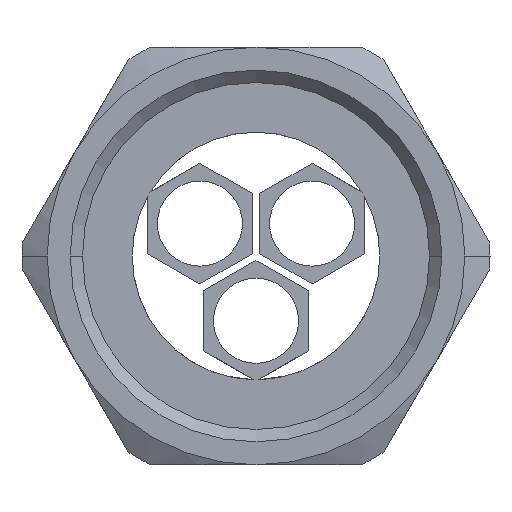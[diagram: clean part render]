
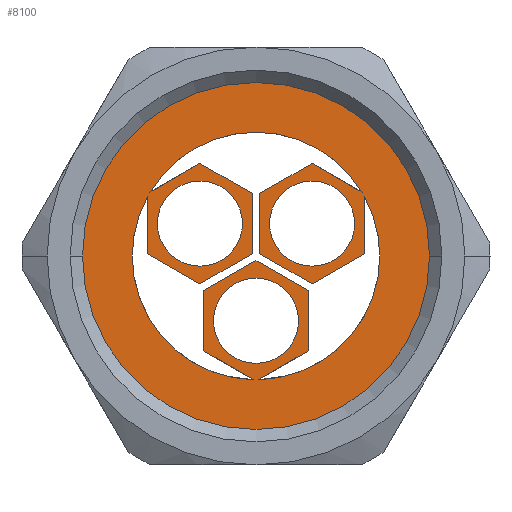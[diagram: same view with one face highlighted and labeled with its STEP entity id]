
A CAD part, left-side view. The second image highlights one B-rep face of the part: STEP entity #8100.
In plain terms, the highlighted planar face has unit normal (-1, 0, 0).
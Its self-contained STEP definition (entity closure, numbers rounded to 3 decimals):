
#5130=CARTESIAN_POINT('',(267.848,146.761,0.));
#5140=VERTEX_POINT('',#5130);
#5230=CARTESIAN_POINT('',(267.848,99.561,0.));
#5240=VERTEX_POINT('',#5230);
#5270=CARTESIAN_POINT('',(267.848,123.161,0.));
#5280=DIRECTION('',(1.,0.,0.));
#5290=DIRECTION('',(0.,-1.,0.));
#5300=AXIS2_PLACEMENT_3D('',#5270,#5280,#5290);
#5310=CIRCLE('',#5300,23.6);
#5320=EDGE_CURVE('',#5140,#5240,#5310,.T.);
#5420=CARTESIAN_POINT('',(267.848,-165.35,
150.406));
#5430=DIRECTION('',(0.,0.866,-0.5));
#5440=VECTOR('',#5430,1.);
#5450=LINE('',#5420,#5440);
#5460=CARTESIAN_POINT('',(267.848,116.411,
-12.269));
#5470=VERTEX_POINT('',#5460);
#5480=CARTESIAN_POINT('',(267.848,122.869,
-15.997));
#5490=VERTEX_POINT('',#5480);
#5500=EDGE_CURVE('',#5470,#5490,#5450,.T.);
#5930=CARTESIAN_POINT('',(267.848,102.861,0.));
#5940=DIRECTION('',(1.,0.,0.));
#5950=DIRECTION('',(0.,-1.,0.));
#5960=AXIS2_PLACEMENT_3D('',#5930,#5940,#5950);
#5970=PLANE('',#5960);
#5980=EDGE_CURVE('',#5240,#5140,#5310,.T.);
#5990=ORIENTED_EDGE('',*,*,#5980,.F.);
#6000=ORIENTED_EDGE('',*,*,#5320,.F.);
#6010=EDGE_LOOP('',(#6000,#5990));
#6020=FACE_OUTER_BOUND('',#6010,.T.);
#6030=CARTESIAN_POINT('',(267.848,115.911,
4.186));
#6040=DIRECTION('',(1.,0.,0.));
#6050=DIRECTION('',(0.,1.,0.));
#6060=AXIS2_PLACEMENT_3D('',#6030,#6040,#6050);
#6070=CIRCLE('',#6060,5.5);
#6080=CARTESIAN_POINT('',(267.848,121.411,
4.186));
#6090=VERTEX_POINT('',#6080);
#6100=CARTESIAN_POINT('',(267.848,110.411,
4.186));
#6110=VERTEX_POINT('',#6100);
#6120=EDGE_CURVE('',#6090,#6110,#6070,.T.);
#6130=ORIENTED_EDGE('',*,*,#6120,.T.);
#6140=EDGE_CURVE('',#6110,#6090,#6070,.T.);
#6150=ORIENTED_EDGE('',*,*,#6140,.T.);
#6160=EDGE_LOOP('',(#6150,#6130));
#6170=FACE_BOUND('',#6160,.T.);
#6180=CARTESIAN_POINT('',(267.848,123.161,
-8.372));
#6190=DIRECTION('',(1.,0.,0.));
#6200=DIRECTION('',(0.,-0.5,0.866));
#6210=AXIS2_PLACEMENT_3D('',#6180,#6190,#6200);
#6220=CIRCLE('',#6210,5.5);
#6230=CARTESIAN_POINT('',(267.848,120.411,
-3.608));
#6240=VERTEX_POINT('',#6230);
#6250=CARTESIAN_POINT('',(267.848,125.911,
-13.135));
#6260=VERTEX_POINT('',#6250);
#6270=EDGE_CURVE('',#6240,#6260,#6220,.T.);
#6280=ORIENTED_EDGE('',*,*,#6270,.T.);
#6290=EDGE_CURVE('',#6260,#6240,#6220,.T.);
#6300=ORIENTED_EDGE('',*,*,#6290,.T.);
#6310=EDGE_LOOP('',(#6300,#6280));
#6320=FACE_BOUND('',#6310,.T.);
#6330=CARTESIAN_POINT('',(267.848,130.411,
4.186));
#6340=DIRECTION('',(1.,0.,0.));
#6350=DIRECTION('',(0.,-0.5,-0.866));
#6360=AXIS2_PLACEMENT_3D('',#6330,#6340,#6350);
#6370=CIRCLE('',#6360,5.5);
#6380=CARTESIAN_POINT('',(267.848,127.661,
-0.577));
#6390=VERTEX_POINT('',#6380);
#6400=CARTESIAN_POINT('',(267.848,133.161,
8.949));
#6410=VERTEX_POINT('',#6400);
#6420=EDGE_CURVE('',#6390,#6410,#6370,.T.);
#6430=ORIENTED_EDGE('',*,*,#6420,.T.);
#6440=EDGE_CURVE('',#6410,#6390,#6370,.T.);
#6450=ORIENTED_EDGE('',*,*,#6440,.T.);
#6460=EDGE_LOOP('',(#6450,#6430));
#6470=FACE_BOUND('',#6460,.T.);
#6480=CARTESIAN_POINT('',(267.848,-165.35,
-158.778));
#6490=DIRECTION('',(0.,-0.866,-0.5));
#6500=VECTOR('',#6490,1.);
#6510=LINE('',#6480,#6500);
#6520=CARTESIAN_POINT('',(267.848,130.411,
11.98));
#6530=VERTEX_POINT('',#6520);
#6540=CARTESIAN_POINT('',(267.848,123.661,
8.083));
#6550=VERTEX_POINT('',#6540);
#6560=EDGE_CURVE('',#6530,#6550,#6510,.T.);
#6570=ORIENTED_EDGE('',*,*,#6560,.F.);
#6580=CARTESIAN_POINT('',(267.848,123.661,0.));
#6590=DIRECTION('',(0.,0.,-1.));
#6600=VECTOR('',#6590,1.);
#6610=LINE('',#6580,#6600);
#6620=CARTESIAN_POINT('',(267.848,123.661,
0.289));
#6630=VERTEX_POINT('',#6620);
#6640=EDGE_CURVE('',#6550,#6630,#6610,.T.);
#6650=ORIENTED_EDGE('',*,*,#6640,.F.);
#6660=CARTESIAN_POINT('',(267.848,-165.35,
167.149));
#6670=DIRECTION('',(0.,0.866,-0.5));
#6680=VECTOR('',#6670,1.);
#6690=LINE('',#6660,#6680);
#6700=CARTESIAN_POINT('',(267.848,130.411,
-3.608));
#6710=VERTEX_POINT('',#6700);
#6720=EDGE_CURVE('',#6630,#6710,#6690,.T.);
#6730=ORIENTED_EDGE('',*,*,#6720,.F.);
#6740=CARTESIAN_POINT('',(267.848,-165.35,
-174.366));
#6750=DIRECTION('',(0.,0.866,0.5));
#6760=VECTOR('',#6750,1.);
#6770=LINE('',#6740,#6760);
#6780=CARTESIAN_POINT('',(267.848,137.161,
0.289));
#6790=VERTEX_POINT('',#6780);
#6800=EDGE_CURVE('',#6710,#6790,#6770,.T.);
#6810=ORIENTED_EDGE('',*,*,#6800,.F.);
#6820=CARTESIAN_POINT('',(267.848,137.161,0.));
#6830=DIRECTION('',(0.,0.,1.));
#6840=VECTOR('',#6830,1.);
#6850=LINE('',#6820,#6840);
#6860=CARTESIAN_POINT('',(267.848,137.161,
7.746));
#6870=VERTEX_POINT('',#6860);
#6880=EDGE_CURVE('',#6790,#6870,#6850,.T.);
#6890=ORIENTED_EDGE('',*,*,#6880,.F.);
#6900=CARTESIAN_POINT('',(267.848,123.161,0.));
#6910=DIRECTION('',(1.,0.,0.));
#6920=DIRECTION('',(0.,-1.,0.));
#6930=AXIS2_PLACEMENT_3D('',#6900,#6910,#6920);
#6940=CIRCLE('',#6930,16.);
#6950=CARTESIAN_POINT('',(267.848,139.161,
0.));
#6960=VERTEX_POINT('',#6950);
#6970=EDGE_CURVE('',#6960,#6870,#6940,.T.);
#6980=ORIENTED_EDGE('',*,*,#6970,.T.);
#6990=CARTESIAN_POINT('',(267.848,123.453,
-15.997));
#7000=VERTEX_POINT('',#6990);
#7010=EDGE_CURVE('',#7000,#6960,#6940,.T.);
#7020=ORIENTED_EDGE('',*,*,#7010,.T.);
#7030=CARTESIAN_POINT('',(267.848,-165.35,
-182.738));
#7040=DIRECTION('',(0.,0.866,0.5));
#7050=VECTOR('',#7040,1.);
#7060=LINE('',#7030,#7050);
#7070=CARTESIAN_POINT('',(267.848,129.911,
-12.269));
#7080=VERTEX_POINT('',#7070);
#7090=EDGE_CURVE('',#7000,#7080,#7060,.T.);
#7100=ORIENTED_EDGE('',*,*,#7090,.F.);
#7110=CARTESIAN_POINT('',(267.848,129.911,0.));
#7120=DIRECTION('',(0.,0.,1.));
#7130=VECTOR('',#7120,1.);
#7140=LINE('',#7110,#7130);
#7150=CARTESIAN_POINT('',(267.848,129.911,
-4.474));
#7160=VERTEX_POINT('',#7150);
#7170=EDGE_CURVE('',#7080,#7160,#7140,.T.);
#7180=ORIENTED_EDGE('',*,*,#7170,.F.);
#7190=CARTESIAN_POINT('',(267.848,-165.35,
165.995));
#7200=DIRECTION('',(0.,-0.866,0.5));
#7210=VECTOR('',#7200,1.);
#7220=LINE('',#7190,#7210);
#7230=CARTESIAN_POINT('',(267.848,123.161,
-0.577));
#7240=VERTEX_POINT('',#7230);
#7250=EDGE_CURVE('',#7160,#7240,#7220,.T.);
#7260=ORIENTED_EDGE('',*,*,#7250,.F.);
#7270=CARTESIAN_POINT('',(267.848,-165.35,
-167.149));
#7280=DIRECTION('',(0.,-0.866,-0.5));
#7290=VECTOR('',#7280,1.);
#7300=LINE('',#7270,#7290);
#7310=CARTESIAN_POINT('',(267.848,116.411,
-4.474));
#7320=VERTEX_POINT('',#7310);
#7330=EDGE_CURVE('',#7240,#7320,#7300,.T.);
#7340=ORIENTED_EDGE('',*,*,#7330,.F.);
#7350=CARTESIAN_POINT('',(267.848,116.411,0.));
#7360=DIRECTION('',(0.,0.,-1.));
#7370=VECTOR('',#7360,1.);
#7380=LINE('',#7350,#7370);
#7390=EDGE_CURVE('',#7320,#5470,#7380,.T.);
#7400=ORIENTED_EDGE('',*,*,#7390,.F.);
#7410=ORIENTED_EDGE('',*,*,#5500,.F.);
#7420=CARTESIAN_POINT('',(267.848,107.161,0.));
#7430=VERTEX_POINT('',#7420);
#7440=EDGE_CURVE('',#7430,#5490,#6940,.T.);
#7450=ORIENTED_EDGE('',*,*,#7440,.T.);
#7460=CARTESIAN_POINT('',(267.848,109.161,
7.746));
#7470=VERTEX_POINT('',#7460);
#7480=EDGE_CURVE('',#7470,#7430,#6940,.T.);
#7490=ORIENTED_EDGE('',*,*,#7480,.T.);
#7500=CARTESIAN_POINT('',(267.848,109.161,0.));
#7510=DIRECTION('',(0.,0.,-1.));
#7520=VECTOR('',#7510,1.);
#7530=LINE('',#7500,#7520);
#7540=CARTESIAN_POINT('',(267.848,109.161,
0.289));
#7550=VERTEX_POINT('',#7540);
#7560=EDGE_CURVE('',#7470,#7550,#7530,.T.);
#7570=ORIENTED_EDGE('',*,*,#7560,.F.);
#7580=CARTESIAN_POINT('',(267.848,-165.35,
158.778));
#7590=DIRECTION('',(0.,0.866,-0.5));
#7600=VECTOR('',#7590,1.);
#7610=LINE('',#7580,#7600);
#7620=CARTESIAN_POINT('',(267.848,115.911,
-3.608));
#7630=VERTEX_POINT('',#7620);
#7640=EDGE_CURVE('',#7550,#7630,#7610,.T.);
#7650=ORIENTED_EDGE('',*,*,#7640,.F.);
#7660=CARTESIAN_POINT('',(267.848,-165.35,
-165.995));
#7670=DIRECTION('',(0.,0.866,0.5));
#7680=VECTOR('',#7670,1.);
#7690=LINE('',#7660,#7680);
#7700=CARTESIAN_POINT('',(267.848,122.661,
0.289));
#7710=VERTEX_POINT('',#7700);
#7720=EDGE_CURVE('',#7630,#7710,#7690,.T.);
#7730=ORIENTED_EDGE('',*,*,#7720,.F.);
#7740=CARTESIAN_POINT('',(267.848,122.661,0.));
#7750=DIRECTION('',(0.,0.,1.));
#7760=VECTOR('',#7750,1.);
#7770=LINE('',#7740,#7760);
#7780=CARTESIAN_POINT('',(267.848,122.661,
8.083));
#7790=VERTEX_POINT('',#7780);
#7800=EDGE_CURVE('',#7710,#7790,#7770,.T.);
#7810=ORIENTED_EDGE('',*,*,#7800,.F.);
#7820=CARTESIAN_POINT('',(267.848,-165.35,
174.366));
#7830=DIRECTION('',(0.,-0.866,0.5));
#7840=VECTOR('',#7830,1.);
#7850=LINE('',#7820,#7840);
#7860=CARTESIAN_POINT('',(267.848,115.911,
11.98));
#7870=VERTEX_POINT('',#7860);
#7880=EDGE_CURVE('',#7790,#7870,#7850,.T.);
#7890=ORIENTED_EDGE('',*,*,#7880,.F.);
#7900=CARTESIAN_POINT('',(267.848,-165.35,
-150.406));
#7910=DIRECTION('',(0.,-0.866,-0.5));
#7920=VECTOR('',#7910,1.);
#7930=LINE('',#7900,#7920);
#7940=CARTESIAN_POINT('',(267.848,109.453,
8.251));
#7950=VERTEX_POINT('',#7940);
#7960=EDGE_CURVE('',#7870,#7950,#7930,.T.);
#7970=ORIENTED_EDGE('',*,*,#7960,.F.);
#7980=CARTESIAN_POINT('',(267.848,136.869,
8.251));
#7990=VERTEX_POINT('',#7980);
#8000=EDGE_CURVE('',#7990,#7950,#6940,.T.);
#8010=ORIENTED_EDGE('',*,*,#8000,.T.);
#8020=CARTESIAN_POINT('',(267.848,-165.35,
182.738));
#8030=DIRECTION('',(0.,-0.866,0.5));
#8040=VECTOR('',#8030,1.);
#8050=LINE('',#8020,#8040);
#8060=EDGE_CURVE('',#7990,#6530,#8050,.T.);
#8070=ORIENTED_EDGE('',*,*,#8060,.F.);
#8080=EDGE_LOOP('',(#8070,#8010,#7970,#7890,#7810,#7730,#7650,#7570,
#7490,#7450,#7410,#7400,#7340,#7260,#7180,#7100,#7020,#6980,#6890,#6810,
#6730,#6650,#6570));
#8090=FACE_BOUND('',#8080,.T.);
#8100=ADVANCED_FACE('',(#6020,#6170,#6320,#6470,#8090),#5970,.F.);
